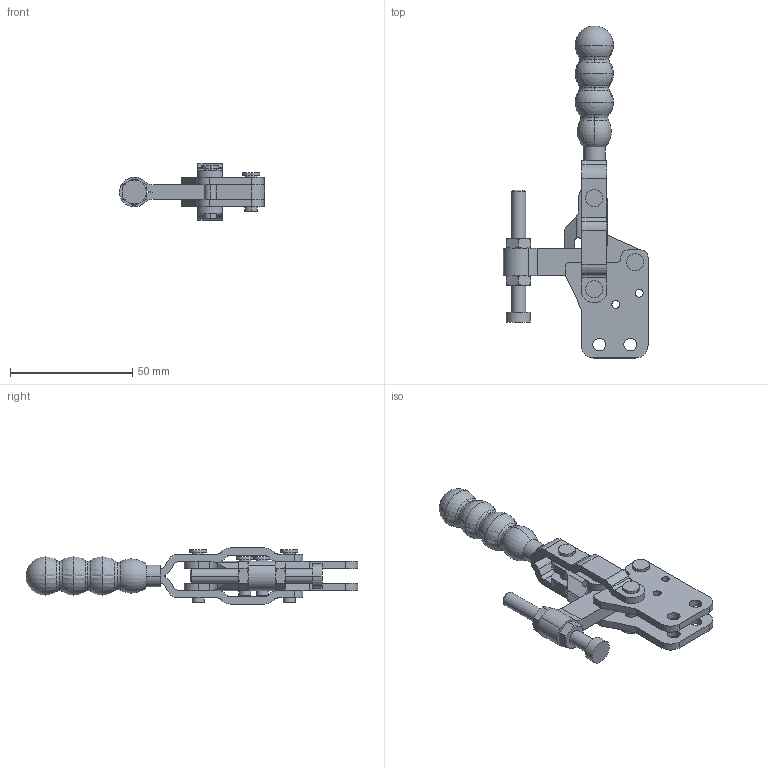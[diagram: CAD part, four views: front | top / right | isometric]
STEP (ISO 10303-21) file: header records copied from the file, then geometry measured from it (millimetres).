
FILE_DESCRIPTION( ( '' ), '1' );
FILE_NAME( '//partserver002.servicenet/client_exchange/iodir/jobs/output/wkb5782575_no0/STEP/v150_1c_2_03.stp', '2006-11-29T10:31:55', ( '' ), ( '' ), ' ', ' ', ' ' );
FILE_SCHEMA( ( 'CONFIG_CONTROL_DESIGN' ) );
Length unit declared in the file: millimetre
Products named in the file (6): 1; 2; 3; 4; 5; 6
Bounding box: 59.38 x 135.9 x 23 mm (x, y, z)
Volume: 27977.5 mm3; surface area: 18936.8 mm2
Topology: 6 solids, 6 shells, 288 faces, 757 edges, 490 vertices
Faces by surface type: cylinder 135, plane 99, cone 34, torus 14, sphere 6
Entity records: 9317 total; most frequent: CARTESIAN_POINT 1727, DIRECTION 1645, ORIENTED_EDGE 1490, EDGE_CURVE 745, AXIS2_PLACEMENT_3D 664, VERTEX_POINT 490, CIRCLE 356, EDGE_LOOP 349
